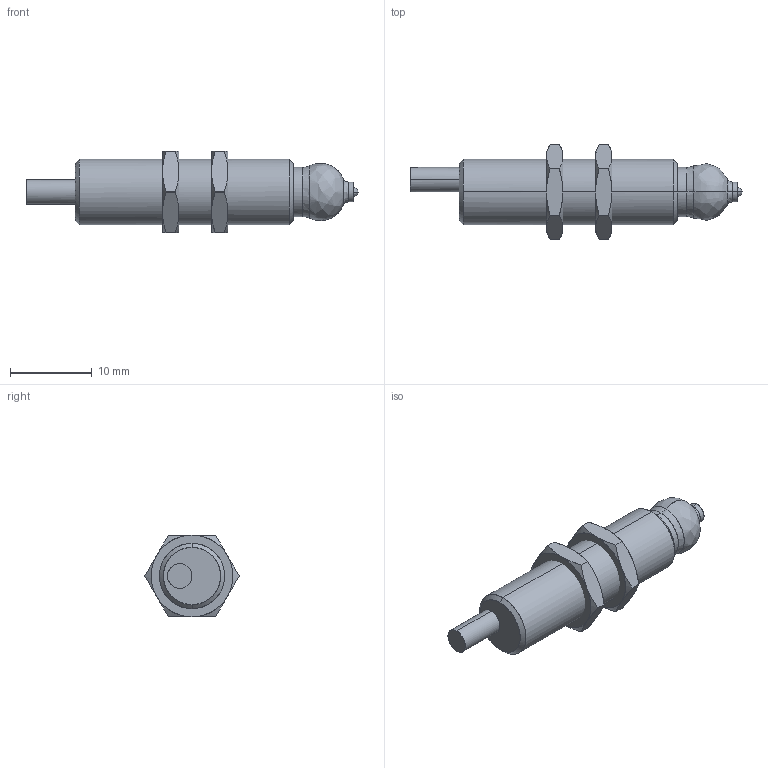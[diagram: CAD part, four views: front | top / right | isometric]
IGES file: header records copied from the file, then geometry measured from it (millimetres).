
Start section: Comment
Global section: file name: MY COM_M.igs; native system:  By Spatial Corp.; preprocessor: XPlus GENERIC/IGES 3.0; author: Author; organization: Title; date: 20070405.101016; units: millimetre
Bounding box: 40.61 x 11.55 x 10 mm (x, y, z)
Surface area: 1335.2 mm2 (no closed solid volume)
Topology: 0 solids, 0 shells, 80 faces, 336 edges, 332 vertices
Faces by surface type: bspline 80
